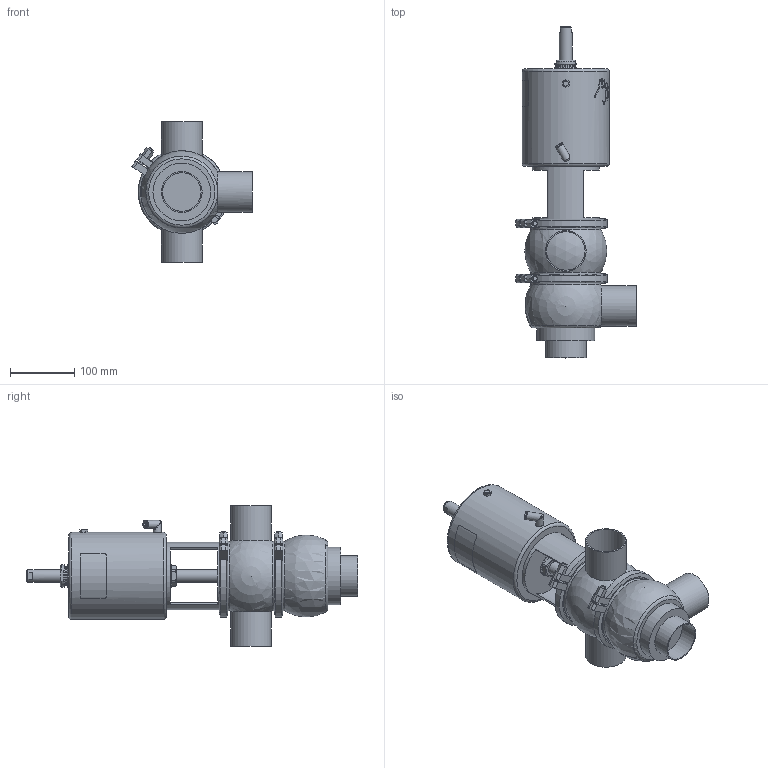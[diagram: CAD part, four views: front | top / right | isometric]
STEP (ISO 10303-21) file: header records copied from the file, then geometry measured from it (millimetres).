
FILE_DESCRIPTION (( 'STEP AP214' ), '1' );
FILE_NAME ('INNOVA K E W OD 2½ T3 AS NC_10.240.16.0022.STEP', '2024-08-06T10:53:39', ( '' ), ( '' ), 'SwSTEP 2.0', 'SolidWorks 2023', '' );
FILE_SCHEMA (( 'AUTOMOTIVE_DESIGN' ));
Length unit declared in the file: millimetre
Products named in the file (6): 10.240.15.0007_OD 2½"; 10.240.15.0014_T3 AS P0; 10.240.15.0001_DN 065; 10.240.15.0002_OD 2½"; INNOVA K E W OD 2½ T3 AS NC_10.240.16.0022; 10.240.15.0010_DN 065
Assembly tree (6 placements, depth 2):
  INNOVA K E W OD 2½ T3 AS NC_10.240.16.0022
    10.240.15.0007_OD 2½"
    10.240.15.0002_OD 2½"
    10.240.15.0010_DN 065
    10.240.15.0014_T3 AS P0
    10.240.15.0001_DN 065  x2
Bounding box: 188.15 x 518.5 x 220 mm (x, y, z)
Volume: 4545211.6 mm3; surface area: 401646.8 mm2
Topology: 6 solids, 6 shells, 401 faces, 1057 edges, 692 vertices
Faces by surface type: plane 194, cylinder 91, bspline 80, cone 26, sphere 5, torus 5
Full cylindrical faces by diameter (mm): 6.15 x1, 8 x5, 8.5 x1, 10.5 x1, 12.5 x3, 16 x1, 20 x2, 31 x1, 34.5 x2, 36.5 x1, 60.2 x4, 63.5 x4, 90 x1, 105 x1, 109 x3, 121 x4, 136 x1
Entity records: 20759 total; most frequent: CARTESIAN_POINT 11411, ORIENTED_EDGE 1626, DIRECTION 1261, EDGE_CURVE 813, VERTEX_POINT 563, AXIS2_PLACEMENT_3D 486, EDGE_LOOP 430, FACE_OUTER_BOUND 384
